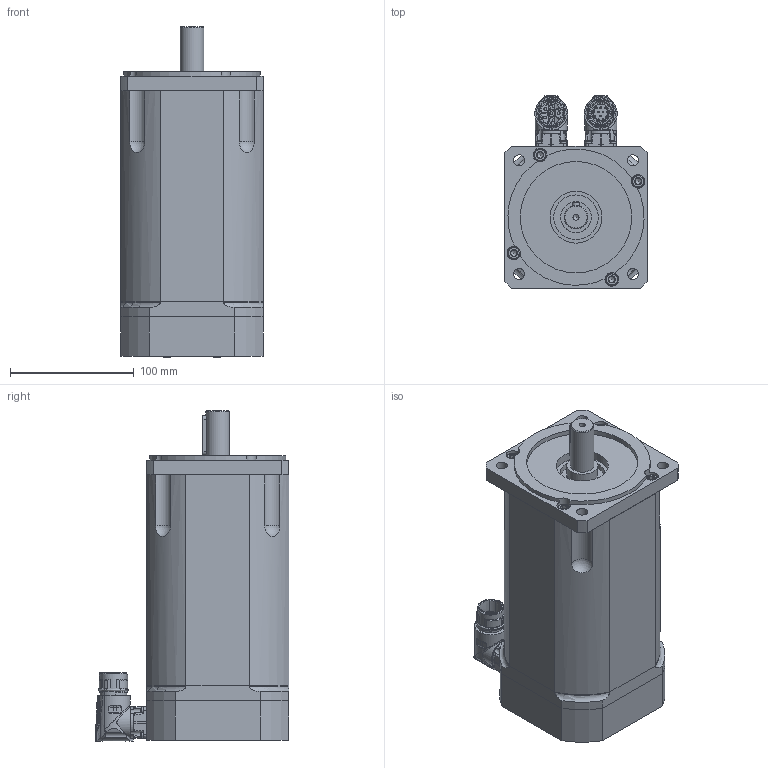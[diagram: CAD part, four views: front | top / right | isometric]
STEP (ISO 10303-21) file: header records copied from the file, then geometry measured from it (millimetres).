
FILE_DESCRIPTION(/* description */ (''),/* implementation_level */ '2;1');
FILE_NAME(/* name */ 'C:\Users\Public\Documents\Autodesk\Inventor LT 2014\Workspace\Motori Sito WEB\TG_4\STEP_DSM5_4x\DSM5_43_x097.stp',/* time_stamp */ '2021-03-31T14:14:25+02:00',/* author */ ('marcor'),/* organization */ (''),/* preprocessor_version */ 'ST-DEVELOPER v15.2',/* originating_system */ 'Autodesk Inventor LT ',/* authorisation */ '');
FILE_SCHEMA (('AUTOMOTIVE_DESIGN { 1 0 10303 214 3 1 1 }'));
Products named in the file (1): DSM5_43_x097
Bounding box: 115 x 156.5 x 267.41 mm (x, y, z)
Volume: 2743720.2 mm3; surface area: 228357.3 mm2
Topology: 16 solids, 26 shells, 1467 faces, 3841 edges, 2557 vertices
Faces by surface type: plane 522, cylinder 438, cone 287, bspline 113, torus 75, sphere 32
Full cylindrical faces by diameter (mm): 1.2 x12, 2.224 x8, 2.233 x6, 2.5 x8, 2.88 x8, 3.26 x8, 4.134 x4, 4.5 x2, 4.8 x8, 4.917 x9, 5 x4, 5.5 x7, 5.9 x2, 6 x8, 6.5 x8, 8.5 x4, 9 x4, 10 x12, 11 x8, 15.2 x1, 17.4 x3, 18 x1, 19 x1, 19.8 x1, 21.15 x4, 21.6 x1, 21.653 x2, 23.8 x1, 24.3 x2, 24.9 x1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
Entity records: 52212 total; most frequent: CARTESIAN_POINT 17847, ORIENTED_EDGE 6830, DIRECTION 6361, EDGE_CURVE 3415, AXIS2_PLACEMENT_3D 2585, VERTEX_POINT 2445, EDGE_LOOP 1970, ADVANCED_FACE 1467
